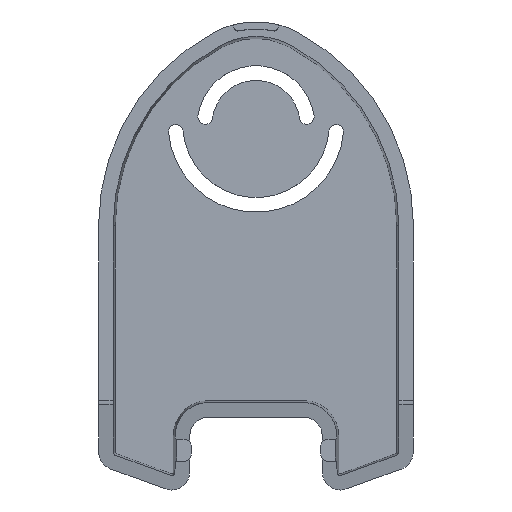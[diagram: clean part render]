
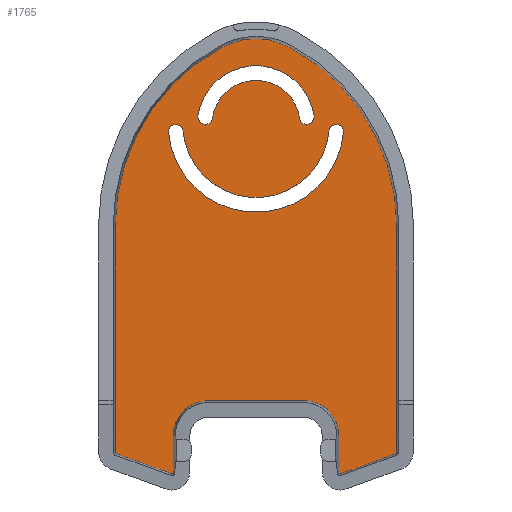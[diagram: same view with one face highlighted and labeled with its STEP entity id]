
A CAD part, top view. The second image highlights one B-rep face of the part: STEP entity #1765.
In plain terms, the highlighted planar face has unit normal (0, 0, 1).
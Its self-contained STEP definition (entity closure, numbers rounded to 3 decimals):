
#34=FACE_BOUND('',#349,.T.);
#35=FACE_BOUND('',#350,.T.);
#88=CIRCLE('',#1922,0.219);
#89=CIRCLE('',#1925,0.219);
#90=CIRCLE('',#1928,4.781);
#91=CIRCLE('',#1930,4.781);
#92=CIRCLE('',#1932,0.219);
#93=CIRCLE('',#1933,0.219);
#94=CIRCLE('',#1934,27.719);
#95=CIRCLE('',#1935,9.719);
#96=CIRCLE('',#1936,27.719);
#97=CIRCLE('',#1937,1.);
#98=CIRCLE('',#1938,12.);
#99=CIRCLE('',#1939,1.);
#100=CIRCLE('',#1940,10.);
#101=CIRCLE('',#1941,1.);
#102=CIRCLE('',#1942,8.);
#103=CIRCLE('',#1943,1.);
#104=CIRCLE('',#1944,6.);
#196=PLANE('',#1931);
#244=FACE_OUTER_BOUND('',#348,.T.);
#348=EDGE_LOOP('',(#1367,#1368,#1369,#1370,#1371,#1372,#1373,#1374,#1375,
#1376,#1377,#1378,#1379,#1380,#1381,#1382));
#349=EDGE_LOOP('',(#1383,#1384,#1385,#1386));
#350=EDGE_LOOP('',(#1387,#1388,#1389,#1390));
#426=LINE('',#2685,#559);
#438=LINE('',#2733,#571);
#499=LINE('',#3029,#632);
#502=LINE('',#3037,#635);
#506=LINE('',#3053,#639);
#507=LINE('',#3060,#640);
#508=LINE('',#3061,#641);
#559=VECTOR('',#2092,10.);
#571=VECTOR('',#2134,10.);
#632=VECTOR('',#2305,10.);
#635=VECTOR('',#2314,10.);
#639=VECTOR('',#2330,10.);
#640=VECTOR('',#2339,10.);
#641=VECTOR('',#2340,10.);
#720=VERTEX_POINT('',#2682);
#721=VERTEX_POINT('',#2684);
#741=VERTEX_POINT('',#2730);
#742=VERTEX_POINT('',#2732);
#803=VERTEX_POINT('',#3023);
#804=VERTEX_POINT('',#3027);
#805=VERTEX_POINT('',#3031);
#806=VERTEX_POINT('',#3035);
#807=VERTEX_POINT('',#3039);
#808=VERTEX_POINT('',#3043);
#809=VERTEX_POINT('',#3045);
#810=VERTEX_POINT('',#3049);
#811=VERTEX_POINT('',#3050);
#812=VERTEX_POINT('',#3052);
#813=VERTEX_POINT('',#3055);
#814=VERTEX_POINT('',#3057);
#815=VERTEX_POINT('',#3062);
#816=VERTEX_POINT('',#3063);
#817=VERTEX_POINT('',#3065);
#818=VERTEX_POINT('',#3067);
#819=VERTEX_POINT('',#3070);
#820=VERTEX_POINT('',#3071);
#821=VERTEX_POINT('',#3073);
#822=VERTEX_POINT('',#3075);
#895=EDGE_CURVE('',#720,#721,#426,.T.);
#919=EDGE_CURVE('',#741,#742,#438,.T.);
#1008=EDGE_CURVE('',#803,#741,#88,.T.);
#1010=EDGE_CURVE('',#804,#803,#499,.F.);
#1012=EDGE_CURVE('',#805,#804,#89,.F.);
#1014=EDGE_CURVE('',#806,#805,#502,.F.);
#1016=EDGE_CURVE('',#807,#806,#90,.F.);
#1018=EDGE_CURVE('',#808,#809,#91,.F.);
#1020=EDGE_CURVE('',#810,#811,#92,.F.);
#1021=EDGE_CURVE('',#812,#810,#506,.T.);
#1022=EDGE_CURVE('',#721,#812,#93,.T.);
#1023=EDGE_CURVE('',#813,#720,#94,.T.);
#1024=EDGE_CURVE('',#814,#813,#95,.T.);
#1025=EDGE_CURVE('',#742,#814,#96,.T.);
#1026=EDGE_CURVE('',#809,#807,#507,.F.);
#1027=EDGE_CURVE('',#811,#808,#508,.F.);
#1028=EDGE_CURVE('',#815,#816,#97,.T.);
#1029=EDGE_CURVE('',#816,#817,#98,.T.);
#1030=EDGE_CURVE('',#817,#818,#99,.T.);
#1031=EDGE_CURVE('',#818,#815,#100,.T.);
#1032=EDGE_CURVE('',#819,#820,#101,.T.);
#1033=EDGE_CURVE('',#820,#821,#102,.T.);
#1034=EDGE_CURVE('',#821,#822,#103,.T.);
#1035=EDGE_CURVE('',#822,#819,#104,.T.);
#1367=ORIENTED_EDGE('',*,*,#1020,.F.);
#1368=ORIENTED_EDGE('',*,*,#1021,.F.);
#1369=ORIENTED_EDGE('',*,*,#1022,.F.);
#1370=ORIENTED_EDGE('',*,*,#895,.F.);
#1371=ORIENTED_EDGE('',*,*,#1023,.F.);
#1372=ORIENTED_EDGE('',*,*,#1024,.F.);
#1373=ORIENTED_EDGE('',*,*,#1025,.F.);
#1374=ORIENTED_EDGE('',*,*,#919,.F.);
#1375=ORIENTED_EDGE('',*,*,#1008,.F.);
#1376=ORIENTED_EDGE('',*,*,#1010,.F.);
#1377=ORIENTED_EDGE('',*,*,#1012,.F.);
#1378=ORIENTED_EDGE('',*,*,#1014,.F.);
#1379=ORIENTED_EDGE('',*,*,#1016,.F.);
#1380=ORIENTED_EDGE('',*,*,#1026,.F.);
#1381=ORIENTED_EDGE('',*,*,#1018,.F.);
#1382=ORIENTED_EDGE('',*,*,#1027,.F.);
#1383=ORIENTED_EDGE('',*,*,#1028,.T.);
#1384=ORIENTED_EDGE('',*,*,#1029,.T.);
#1385=ORIENTED_EDGE('',*,*,#1030,.T.);
#1386=ORIENTED_EDGE('',*,*,#1031,.T.);
#1387=ORIENTED_EDGE('',*,*,#1032,.T.);
#1388=ORIENTED_EDGE('',*,*,#1033,.T.);
#1389=ORIENTED_EDGE('',*,*,#1034,.T.);
#1390=ORIENTED_EDGE('',*,*,#1035,.T.);
#1765=ADVANCED_FACE('',(#244,#34,#35),#196,.T.);
#1922=AXIS2_PLACEMENT_3D('',#3025,#2300,#2301);
#1925=AXIS2_PLACEMENT_3D('',#3033,#2309,#2310);
#1928=AXIS2_PLACEMENT_3D('',#3041,#2318,#2319);
#1930=AXIS2_PLACEMENT_3D('',#3046,#2323,#2324);
#1931=AXIS2_PLACEMENT_3D('',#3048,#2326,#2327);
#1932=AXIS2_PLACEMENT_3D('',#3051,#2328,#2329);
#1933=AXIS2_PLACEMENT_3D('',#3054,#2331,#2332);
#1934=AXIS2_PLACEMENT_3D('',#3056,#2333,#2334);
#1935=AXIS2_PLACEMENT_3D('',#3058,#2335,#2336);
#1936=AXIS2_PLACEMENT_3D('',#3059,#2337,#2338);
#1937=AXIS2_PLACEMENT_3D('',#3064,#2341,#2342);
#1938=AXIS2_PLACEMENT_3D('',#3066,#2343,#2344);
#1939=AXIS2_PLACEMENT_3D('',#3068,#2345,#2346);
#1940=AXIS2_PLACEMENT_3D('',#3069,#2347,#2348);
#1941=AXIS2_PLACEMENT_3D('',#3072,#2349,#2350);
#1942=AXIS2_PLACEMENT_3D('',#3074,#2351,#2352);
#1943=AXIS2_PLACEMENT_3D('',#3076,#2353,#2354);
#1944=AXIS2_PLACEMENT_3D('',#3077,#2355,#2356);
#2092=DIRECTION('',(0.,-1.,0.));
#2134=DIRECTION('',(0.,1.,0.));
#2300=DIRECTION('center_axis',(0.,0.,-1.));
#2301=DIRECTION('ref_axis',(-1.,0.,0.));
#2305=DIRECTION('',(0.94,-0.342,0.));
#2309=DIRECTION('center_axis',(0.,0.,1.));
#2310=DIRECTION('ref_axis',(-0.342,-0.94,0.));
#2314=DIRECTION('',(0.,1.,0.));
#2318=DIRECTION('center_axis',(0.,0.,-1.));
#2319=DIRECTION('ref_axis',(0.,-1.,0.));
#2323=DIRECTION('center_axis',(0.,0.,-1.));
#2324=DIRECTION('ref_axis',(-1.,0.,0.));
#2326=DIRECTION('center_axis',(0.,0.,1.));
#2327=DIRECTION('ref_axis',(1.,0.,0.));
#2328=DIRECTION('center_axis',(0.,0.,1.));
#2329=DIRECTION('ref_axis',(-1.,0.,0.));
#2330=DIRECTION('',(-0.94,-0.342,0.));
#2331=DIRECTION('center_axis',(0.,0.,-1.));
#2332=DIRECTION('ref_axis',(0.342,-0.94,0.));
#2333=DIRECTION('center_axis',(0.,0.,-1.));
#2334=DIRECTION('ref_axis',(1.,0.,0.));
#2335=DIRECTION('center_axis',(0.,0.,-1.));
#2336=DIRECTION('ref_axis',(0.472,0.881,0.));
#2337=DIRECTION('center_axis',(0.,0.,-1.));
#2338=DIRECTION('ref_axis',(-0.472,0.881,0.));
#2339=DIRECTION('',(1.,0.,0.));
#2340=DIRECTION('',(0.,-1.,0.));
#2341=DIRECTION('center_axis',(0.,0.,-1.));
#2342=DIRECTION('ref_axis',(0.996,-0.091,0.));
#2343=DIRECTION('center_axis',(0.,0.,-1.));
#2344=DIRECTION('ref_axis',(-0.996,-0.091,0.));
#2345=DIRECTION('center_axis',(0.,0.,-1.));
#2346=DIRECTION('ref_axis',(0.996,0.091,0.));
#2347=DIRECTION('center_axis',(0.,0.,1.));
#2348=DIRECTION('ref_axis',(0.996,0.091,0.));
#2349=DIRECTION('center_axis',(0.,0.,-1.));
#2350=DIRECTION('ref_axis',(-0.99,0.143,0.));
#2351=DIRECTION('center_axis',(0.,0.,-1.));
#2352=DIRECTION('ref_axis',(0.99,0.143,0.));
#2353=DIRECTION('center_axis',(0.,0.,-1.));
#2354=DIRECTION('ref_axis',(-0.99,-0.143,0.));
#2355=DIRECTION('center_axis',(0.,0.,1.));
#2356=DIRECTION('ref_axis',(-0.99,-0.143,0.));
#2682=CARTESIAN_POINT('',(19.219,4.133,-8.));
#2684=CARTESIAN_POINT('',(19.219,-26.77,-8.));
#2685=CARTESIAN_POINT('',(19.219,-13.385,-8.));
#2730=CARTESIAN_POINT('',(-19.219,-26.77,-8.));
#2732=CARTESIAN_POINT('',(-19.219,4.133,-8.));
#2733=CARTESIAN_POINT('',(-19.219,2.067,-8.));
#3023=CARTESIAN_POINT('',(-19.075,-26.976,-8.));
#3025=CARTESIAN_POINT('Origin',(-19.,-26.77,-8.));
#3027=CARTESIAN_POINT('',(-11.575,-29.706,-8.));
#3029=CARTESIAN_POINT('',(-14.988,-28.464,-8.));
#3031=CARTESIAN_POINT('',(-11.281,-29.5,-8.));
#3033=CARTESIAN_POINT('Origin',(-11.5,-29.5,-8.));
#3035=CARTESIAN_POINT('',(-11.281,-24.5,-8.));
#3037=CARTESIAN_POINT('',(-11.281,-14.75,-8.));
#3039=CARTESIAN_POINT('',(-6.5,-19.719,-8.));
#3041=CARTESIAN_POINT('Origin',(-6.5,-24.5,-8.));
#3043=CARTESIAN_POINT('',(11.281,-24.5,-8.));
#3045=CARTESIAN_POINT('',(6.5,-19.719,-8.));
#3046=CARTESIAN_POINT('Origin',(6.5,-24.5,-8.));
#3048=CARTESIAN_POINT('Origin',(0.,0.,
-8.));
#3049=CARTESIAN_POINT('',(11.575,-29.706,-8.));
#3050=CARTESIAN_POINT('',(11.281,-29.5,-8.));
#3051=CARTESIAN_POINT('Origin',(11.5,-29.5,-8.));
#3052=CARTESIAN_POINT('',(19.075,-26.976,-8.));
#3053=CARTESIAN_POINT('',(11.238,-29.829,-8.));
#3054=CARTESIAN_POINT('Origin',(19.,-26.77,-8.));
#3055=CARTESIAN_POINT('',(4.59,28.567,-8.));
#3056=CARTESIAN_POINT('Origin',(-8.5,4.133,-8.));
#3057=CARTESIAN_POINT('',(-4.59,28.567,-8.));
#3058=CARTESIAN_POINT('Origin',(0.,20.,-8.));
#3059=CARTESIAN_POINT('Origin',(8.5,4.133,-8.));
#3060=CARTESIAN_POINT('',(-3.25,-19.719,-8.));
#3061=CARTESIAN_POINT('',(11.281,-12.25,-8.));
#3062=CARTESIAN_POINT('',(9.959,17.091,-8.));
#3063=CARTESIAN_POINT('',(11.95,16.909,-8.));
#3064=CARTESIAN_POINT('Origin',(10.954,17.,-8.));
#3065=CARTESIAN_POINT('',(-11.95,16.909,-8.));
#3066=CARTESIAN_POINT('Origin',(0.,18.,-8.));
#3067=CARTESIAN_POINT('',(-9.959,17.091,-8.));
#3068=CARTESIAN_POINT('Origin',(-10.954,17.,-8.));
#3069=CARTESIAN_POINT('Origin',(0.,18.,-8.));
#3070=CARTESIAN_POINT('',(-5.938,18.857,-8.));
#3071=CARTESIAN_POINT('',(-7.918,19.143,-8.));
#3072=CARTESIAN_POINT('Origin',(-6.928,19.,-8.));
#3073=CARTESIAN_POINT('',(7.918,19.143,-8.));
#3074=CARTESIAN_POINT('Origin',(0.,18.,-8.));
#3075=CARTESIAN_POINT('',(5.938,18.857,-8.));
#3076=CARTESIAN_POINT('Origin',(6.928,19.,-8.));
#3077=CARTESIAN_POINT('Origin',(0.,18.,-8.));
